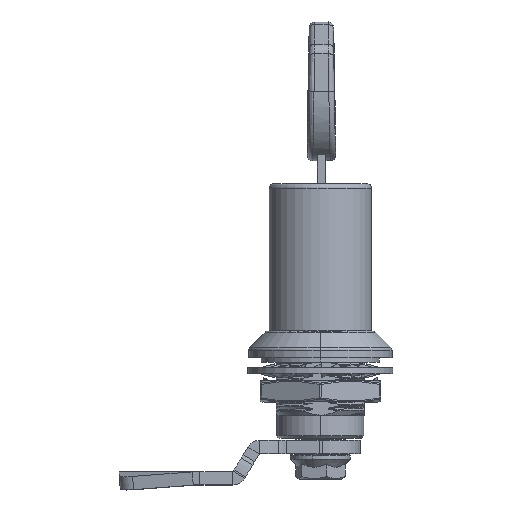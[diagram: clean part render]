
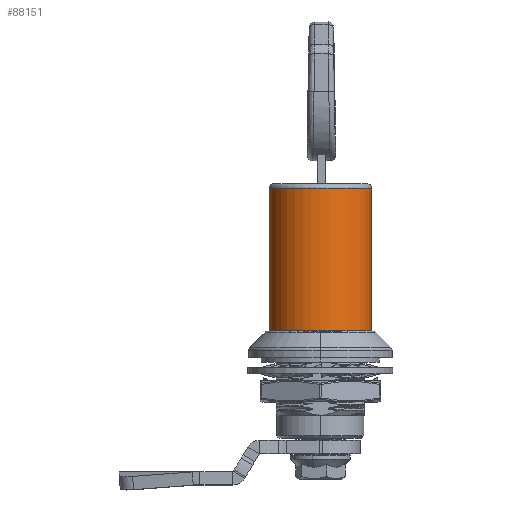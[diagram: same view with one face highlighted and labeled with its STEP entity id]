
A CAD part, top view. The second image highlights one B-rep face of the part: STEP entity #88151.
In plain terms, the highlighted cylindrical face has radius 11.5 mm (diameter 23 mm), a partial arc.
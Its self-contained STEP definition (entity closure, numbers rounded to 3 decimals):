
#3340 = DIRECTION ( 'NONE',  ( 0., -1., 0. ) ) ;
#4180 = EDGE_LOOP ( 'NONE', ( #122630, #124951, #109185, #82451 ) ) ;
#4438 = EDGE_CURVE ( 'NONE', #122957, #113579, #59780, .T. ) ;
#4735 = LINE ( 'NONE', #100636, #41312 ) ;
#6823 = CIRCLE ( 'NONE', #100738, 11.5 ) ;
#8737 = VERTEX_POINT ( 'NONE', #76889 ) ;
#18763 = DIRECTION ( 'NONE',  ( 0., 1., 0. ) ) ;
#19525 = AXIS2_PLACEMENT_3D ( 'NONE', #81074, #18763, #91566 ) ;
#23760 = AXIS2_PLACEMENT_3D ( 'NONE', #131061, #87022, #34537 ) ;
#24386 = DIRECTION ( 'NONE',  ( 0., 0., -1. ) ) ;
#25236 = CARTESIAN_POINT ( 'NONE',  ( 0., -32.9, -11.5 ) ) ;
#32171 = EDGE_CURVE ( 'NONE', #8737, #113579, #65825, .T. ) ;
#34537 = DIRECTION ( 'NONE',  ( 0., 0., -1. ) ) ;
#41312 = VECTOR ( 'NONE', #47443, 1000. ) ;
#45509 = CARTESIAN_POINT ( 'NONE',  ( 0., 3.045, 11.5 ) ) ;
#46755 = CARTESIAN_POINT ( 'NONE',  ( 0., -1., 0. ) ) ;
#47443 = DIRECTION ( 'NONE',  ( 0., -1., 0. ) ) ;
#59780 = CIRCLE ( 'NONE', #19525, 11.5 ) ;
#61700 = EDGE_CURVE ( 'NONE', #103631, #122957, #4735, .T. ) ;
#63775 = DIRECTION ( 'NONE',  ( 0., -1., 0. ) ) ;
#65825 = LINE ( 'NONE', #45509, #95116 ) ;
#76889 = CARTESIAN_POINT ( 'NONE',  ( 0., -1., 11.5 ) ) ;
#81074 = CARTESIAN_POINT ( 'NONE',  ( 0., -32.9, 0. ) ) ;
#82451 = ORIENTED_EDGE ( 'NONE', *, *, #4438, .T. ) ;
#86335 = FACE_OUTER_BOUND ( 'NONE', #4180, .T. ) ;
#87022 = DIRECTION ( 'NONE',  ( 0., -1., 0. ) ) ;
#88151 = ADVANCED_FACE ( 'NONE', ( #86335 ), #109446, .T. ) ;
#91566 = DIRECTION ( 'NONE',  ( 0., 0., -1. ) ) ;
#95116 = VECTOR ( 'NONE', #63775, 1000. ) ;
#97968 = CARTESIAN_POINT ( 'NONE',  ( 0., -32.9, 11.5 ) ) ;
#100636 = CARTESIAN_POINT ( 'NONE',  ( 0., 3.045, -11.5 ) ) ;
#100738 = AXIS2_PLACEMENT_3D ( 'NONE', #46755, #3340, #24386 ) ;
#103631 = VERTEX_POINT ( 'NONE', #117934 ) ;
#109185 = ORIENTED_EDGE ( 'NONE', *, *, #61700, .T. ) ;
#109446 = CYLINDRICAL_SURFACE ( 'NONE', #23760, 11.5 ) ;
#113579 = VERTEX_POINT ( 'NONE', #97968 ) ;
#117934 = CARTESIAN_POINT ( 'NONE',  ( 0., -1., -11.5 ) ) ;
#122630 = ORIENTED_EDGE ( 'NONE', *, *, #32171, .F. ) ;
#122957 = VERTEX_POINT ( 'NONE', #25236 ) ;
#124951 = ORIENTED_EDGE ( 'NONE', *, *, #134012, .T. ) ;
#131061 = CARTESIAN_POINT ( 'NONE',  ( 0., 3.045, 0. ) ) ;
#134012 = EDGE_CURVE ( 'NONE', #8737, #103631, #6823, .T. ) ;
